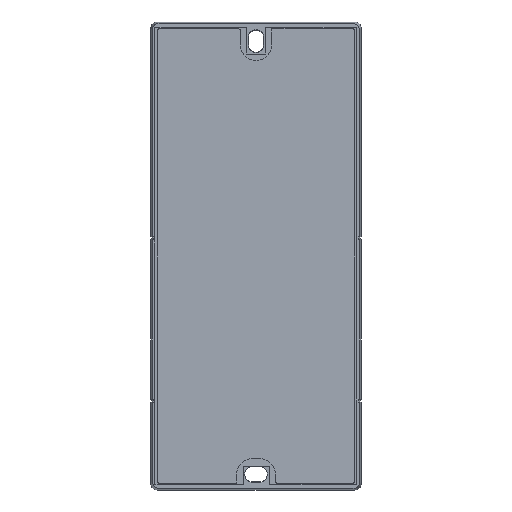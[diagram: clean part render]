
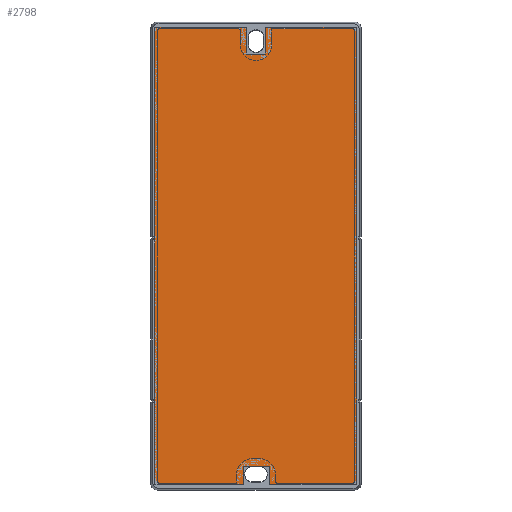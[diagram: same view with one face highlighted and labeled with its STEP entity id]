
A CAD part, front view. The second image highlights one B-rep face of the part: STEP entity #2798.
In plain terms, the highlighted planar face has unit normal (0, -1, 0).
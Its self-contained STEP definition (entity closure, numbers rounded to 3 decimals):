
#59=DIRECTION('',(0.,0.,1.));
#60=VECTOR('',#59,105.31);
#61=CARTESIAN_POINT('',(28.485,5.4,-135.806));
#62=LINE('',#61,#60);
#67=DIRECTION('',(-1.,0.,0.));
#68=VECTOR('',#67,0.183);
#69=CARTESIAN_POINT('',(28.668,5.4,-135.806));
#70=LINE('',#69,#68);
#74=DIRECTION('',(0.,0.,1.));
#75=VECTOR('',#74,4.69);
#76=CARTESIAN_POINT('',(28.668,5.4,-140.496));
#77=LINE('',#76,#75);
#81=DIRECTION('',(1.,0.,0.));
#82=VECTOR('',#81,0.183);
#83=CARTESIAN_POINT('',(28.485,5.4,-140.496));
#84=LINE('',#83,#82);
#88=DIRECTION('',(0.,0.,1.));
#89=VECTOR('',#88,19.919);
#90=CARTESIAN_POINT('',(28.485,5.4,-160.414));
#91=LINE('',#90,#89);
#95=DIRECTION('',(1.,0.,0.));
#96=VECTOR('',#95,24.56);
#97=CARTESIAN_POINT('',(3.925,5.4,-160.414));
#98=LINE('',#97,#96);
#102=DIRECTION('',(0.,0.,-1.));
#103=VECTOR('',#102,5.281);
#104=CARTESIAN_POINT('',(3.925,5.4,-155.133));
#105=LINE('',#104,#103);
#109=DIRECTION('',(1.,0.,0.));
#110=VECTOR('',#109,7.435);
#111=CARTESIAN_POINT('',(-3.511,5.4,-155.133));
#112=LINE('',#111,#110);
#116=DIRECTION('',(0.,0.,1.));
#117=VECTOR('',#116,5.281);
#118=CARTESIAN_POINT('',(-3.511,5.4,-160.414));
#119=LINE('',#118,#117);
#123=DIRECTION('',(1.,0.,0.));
#124=VECTOR('',#123,25.174);
#125=CARTESIAN_POINT('',(-28.685,5.4,-160.414));
#126=LINE('',#125,#124);
#130=DIRECTION('',(0.,0.,-1.));
#131=VECTOR('',#130,89.671);
#132=CARTESIAN_POINT('',(-28.685,5.4,-70.743));
#133=LINE('',#132,#131);
#137=DIRECTION('',(1.,0.,0.));
#138=VECTOR('',#137,0.1);
#139=CARTESIAN_POINT('',(-28.784,5.4,-70.743));
#140=LINE('',#139,#138);
#144=DIRECTION('',(0.,0.,-1.));
#145=VECTOR('',#144,10.41);
#146=CARTESIAN_POINT('',(-28.784,5.4,-60.333));
#147=LINE('',#146,#145);
#151=DIRECTION('',(-1.,0.,0.));
#152=VECTOR('',#151,0.1);
#153=CARTESIAN_POINT('',(-28.685,5.4,-60.333));
#154=LINE('',#153,#152);
#158=DIRECTION('',(0.,0.,-1.));
#159=VECTOR('',#158,29.839);
#160=CARTESIAN_POINT('',(-28.685,5.4,-30.494));
#161=LINE('',#160,#159);
#165=DIRECTION('',(-1.,0.,0.));
#166=VECTOR('',#165,25.903);
#167=CARTESIAN_POINT('',(-2.781,5.4,-30.494));
#168=LINE('',#167,#166);
#172=DIRECTION('',(0.,0.,1.));
#173=VECTOR('',#172,7.649);
#174=CARTESIAN_POINT('',(-2.781,5.4,-38.142));
#175=LINE('',#174,#173);
#179=DIRECTION('',(-1.,0.,0.));
#180=VECTOR('',#179,5.462);
#181=CARTESIAN_POINT('',(2.681,5.4,-38.142));
#182=LINE('',#181,#180);
#186=DIRECTION('',(0.,0.,-1.));
#187=VECTOR('',#186,7.647);
#188=CARTESIAN_POINT('',(2.681,5.4,-30.495));
#189=LINE('',#188,#187);
#481=DIRECTION('',(-1.,0.,0.));
#482=VECTOR('',#481,25.804);
#483=CARTESIAN_POINT('',(28.485,5.4,-30.495));
#484=LINE('',#483,#482);
#2331=CARTESIAN_POINT('',(-28.784,5.4,-60.333));
#2332=CARTESIAN_POINT('',(-28.784,5.4,-70.743));
#2333=VERTEX_POINT('',#2331);
#2334=VERTEX_POINT('',#2332);
#2375=CARTESIAN_POINT('',(28.668,5.4,-140.496));
#2376=CARTESIAN_POINT('',(28.668,5.4,-135.806));
#2377=VERTEX_POINT('',#2375);
#2378=VERTEX_POINT('',#2376);
#2603=CARTESIAN_POINT('',(-28.685,5.4,-160.414));
#2604=CARTESIAN_POINT('',(-3.511,5.4,-160.414));
#2605=VERTEX_POINT('',#2603);
#2606=VERTEX_POINT('',#2604);
#2607=CARTESIAN_POINT('',(-3.511,5.4,-155.133));
#2608=VERTEX_POINT('',#2607);
#2609=CARTESIAN_POINT('',(3.925,5.4,-155.133));
#2610=VERTEX_POINT('',#2609);
#2611=CARTESIAN_POINT('',(3.925,5.4,-160.414));
#2612=VERTEX_POINT('',#2611);
#2613=CARTESIAN_POINT('',(28.485,5.4,-160.414));
#2614=VERTEX_POINT('',#2613);
#2615=CARTESIAN_POINT('',(2.681,5.4,-30.495));
#2616=CARTESIAN_POINT('',(2.681,5.4,-38.142));
#2617=VERTEX_POINT('',#2615);
#2618=VERTEX_POINT('',#2616);
#2619=CARTESIAN_POINT('',(-2.781,5.4,-38.142));
#2620=VERTEX_POINT('',#2619);
#2621=CARTESIAN_POINT('',(-2.781,5.4,-30.494));
#2622=VERTEX_POINT('',#2621);
#2623=CARTESIAN_POINT('',(-28.685,5.4,-30.494));
#2624=VERTEX_POINT('',#2623);
#2647=CARTESIAN_POINT('',(28.485,5.4,-30.495));
#2649=VERTEX_POINT('',#2647);
#2675=CARTESIAN_POINT('',(-28.685,5.4,-70.743));
#2676=VERTEX_POINT('',#2675);
#2681=CARTESIAN_POINT('',(-28.685,5.4,-60.333));
#2682=VERTEX_POINT('',#2681);
#2729=CARTESIAN_POINT('',(28.485,5.4,-140.496));
#2730=VERTEX_POINT('',#2729);
#2733=CARTESIAN_POINT('',(28.485,5.4,-135.806));
#2734=VERTEX_POINT('',#2733);
#2751=CARTESIAN_POINT('',(0.,5.4,-147.));
#2752=DIRECTION('',(0.,-1.,0.));
#2753=DIRECTION('',(0.,0.,-1.));
#2754=AXIS2_PLACEMENT_3D('',#2751,#2752,#2753);
#2755=PLANE('',#2754);
#2757=ORIENTED_EDGE('',*,*,#2756,.F.);
#2759=ORIENTED_EDGE('',*,*,#2758,.F.);
#2761=ORIENTED_EDGE('',*,*,#2760,.F.);
#2763=ORIENTED_EDGE('',*,*,#2762,.F.);
#2765=ORIENTED_EDGE('',*,*,#2764,.F.);
#2767=ORIENTED_EDGE('',*,*,#2766,.F.);
#2769=ORIENTED_EDGE('',*,*,#2768,.F.);
#2771=ORIENTED_EDGE('',*,*,#2770,.F.);
#2773=ORIENTED_EDGE('',*,*,#2772,.F.);
#2775=ORIENTED_EDGE('',*,*,#2774,.F.);
#2777=ORIENTED_EDGE('',*,*,#2776,.F.);
#2779=ORIENTED_EDGE('',*,*,#2778,.F.);
#2781=ORIENTED_EDGE('',*,*,#2780,.F.);
#2783=ORIENTED_EDGE('',*,*,#2782,.F.);
#2785=ORIENTED_EDGE('',*,*,#2784,.F.);
#2787=ORIENTED_EDGE('',*,*,#2786,.F.);
#2789=ORIENTED_EDGE('',*,*,#2788,.F.);
#2791=ORIENTED_EDGE('',*,*,#2790,.F.);
#2793=ORIENTED_EDGE('',*,*,#2792,.F.);
#2795=ORIENTED_EDGE('',*,*,#2794,.F.);
#2796=EDGE_LOOP('',(#2757,#2759,#2761,#2763,#2765,#2767,#2769,#2771,#2773,#2775,
#2777,#2779,#2781,#2783,#2785,#2787,#2789,#2791,#2793,#2795));
#2797=FACE_OUTER_BOUND('',#2796,.F.);
#2798=ADVANCED_FACE('',(#2797),#2755,.T.);
#2756=EDGE_CURVE('',#2649,#2617,#484,.T.);
#2758=EDGE_CURVE('',#2734,#2649,#62,.T.);
#2760=EDGE_CURVE('',#2378,#2734,#70,.T.);
#2762=EDGE_CURVE('',#2377,#2378,#77,.T.);
#2764=EDGE_CURVE('',#2730,#2377,#84,.T.);
#2766=EDGE_CURVE('',#2614,#2730,#91,.T.);
#2768=EDGE_CURVE('',#2612,#2614,#98,.T.);
#2770=EDGE_CURVE('',#2610,#2612,#105,.T.);
#2772=EDGE_CURVE('',#2608,#2610,#112,.T.);
#2774=EDGE_CURVE('',#2606,#2608,#119,.T.);
#2776=EDGE_CURVE('',#2605,#2606,#126,.T.);
#2778=EDGE_CURVE('',#2676,#2605,#133,.T.);
#2780=EDGE_CURVE('',#2334,#2676,#140,.T.);
#2782=EDGE_CURVE('',#2333,#2334,#147,.T.);
#2784=EDGE_CURVE('',#2682,#2333,#154,.T.);
#2786=EDGE_CURVE('',#2624,#2682,#161,.T.);
#2788=EDGE_CURVE('',#2622,#2624,#168,.T.);
#2790=EDGE_CURVE('',#2620,#2622,#175,.T.);
#2792=EDGE_CURVE('',#2618,#2620,#182,.T.);
#2794=EDGE_CURVE('',#2617,#2618,#189,.T.);
